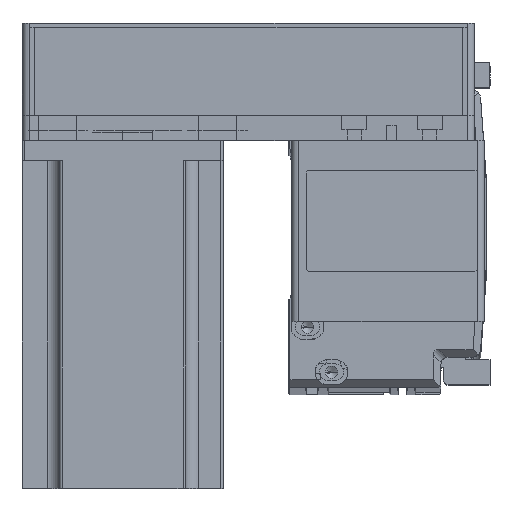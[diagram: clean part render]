
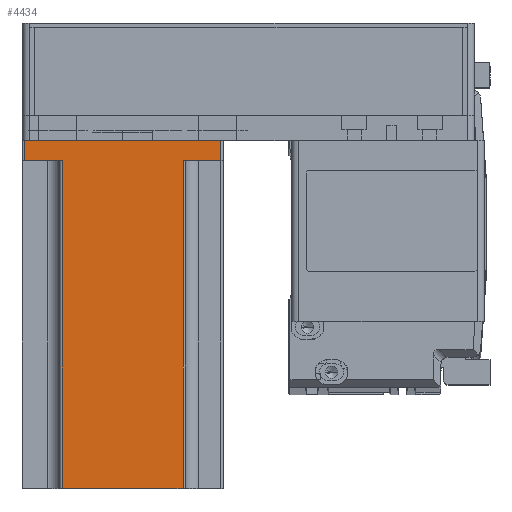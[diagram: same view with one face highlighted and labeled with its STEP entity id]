
A CAD part, top view. The second image highlights one B-rep face of the part: STEP entity #4434.
In plain terms, the highlighted planar face has unit normal (0, 0, 1) as drawn and (0, 1, 0) by its records, which use the part's own axes.
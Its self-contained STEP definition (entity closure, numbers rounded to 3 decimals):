
#4149 = LINE ( 'NONE', #34755, #52538 ) ;
#4434 = ADVANCED_FACE ( 'NONE', ( #22266 ), #26450, .F. ) ;
#5573 = VERTEX_POINT ( 'NONE', #26289 ) ;
#6129 = EDGE_CURVE ( 'NONE', #24711, #8296, #57076, .T. ) ;
#7142 = CARTESIAN_POINT ( 'NONE',  ( 39., 40., 0. ) ) ;
#8296 = VERTEX_POINT ( 'NONE', #11231 ) ;
#9396 = CARTESIAN_POINT ( 'NONE',  ( -24., 40., 138.3 ) ) ;
#10333 = LINE ( 'NONE', #21644, #22128 ) ;
#10719 = ORIENTED_EDGE ( 'NONE', *, *, #12893, .T. ) ;
#11231 = CARTESIAN_POINT ( 'NONE',  ( 24., 40., 8. ) ) ;
#11527 = VECTOR ( 'NONE', #13730, 1000. ) ;
#12279 = VERTEX_POINT ( 'NONE', #38466 ) ;
#12893 = EDGE_CURVE ( 'NONE', #5573, #48440, #4149, .T. ) ;
#13730 = DIRECTION ( 'NONE',  ( 0., 0., -1. ) ) ;
#14980 = ORIENTED_EDGE ( 'NONE', *, *, #34495, .T. ) ;
#15001 = VECTOR ( 'NONE', #47712, 1000. ) ;
#17083 = DIRECTION ( 'NONE',  ( 0., 0., 1. ) ) ;
#17632 = DIRECTION ( 'NONE',  ( 0., -1., 0. ) ) ;
#18100 = DIRECTION ( 'NONE',  ( -1., 0., 0. ) ) ;
#18305 = EDGE_CURVE ( 'NONE', #38100, #8296, #10333, .T. ) ;
#18637 = CARTESIAN_POINT ( 'NONE',  ( -39., 40., 8. ) ) ;
#20180 = ORIENTED_EDGE ( 'NONE', *, *, #18305, .F. ) ;
#21568 = VERTEX_POINT ( 'NONE', #38615 ) ;
#21644 = CARTESIAN_POINT ( 'NONE',  ( 25., 40., 8. ) ) ;
#22128 = VECTOR ( 'NONE', #48068, 1000. ) ;
#22266 = FACE_OUTER_BOUND ( 'NONE', #39530, .T. ) ;
#23183 = ORIENTED_EDGE ( 'NONE', *, *, #50802, .T. ) ;
#23450 = VECTOR ( 'NONE', #43294, 1000. ) ;
#24711 = VERTEX_POINT ( 'NONE', #33445 ) ;
#26166 = LINE ( 'NONE', #9396, #46796 ) ;
#26289 = CARTESIAN_POINT ( 'NONE',  ( -39., 40., 0. ) ) ;
#26450 = PLANE ( 'NONE',  #39154 ) ;
#26846 = VECTOR ( 'NONE', #18100, 1000. ) ;
#28674 = VECTOR ( 'NONE', #42554, 1000. ) ;
#30471 = CARTESIAN_POINT ( 'NONE',  ( 39., 40., 138.3 ) ) ;
#31320 = CARTESIAN_POINT ( 'NONE',  ( 40., 40., 0. ) ) ;
#33375 = EDGE_CURVE ( 'NONE', #21568, #12279, #26166, .T. ) ;
#33445 = CARTESIAN_POINT ( 'NONE',  ( 24., 40., 138.3 ) ) ;
#34495 = EDGE_CURVE ( 'NONE', #38100, #41663, #41757, .T. ) ;
#34755 = CARTESIAN_POINT ( 'NONE',  ( -39., 40., 138.3 ) ) ;
#34893 = CARTESIAN_POINT ( 'NONE',  ( 39., 40., 8. ) ) ;
#35993 = ORIENTED_EDGE ( 'NONE', *, *, #33375, .T. ) ;
#38100 = VERTEX_POINT ( 'NONE', #34893 ) ;
#38466 = CARTESIAN_POINT ( 'NONE',  ( -24., 40., 138.3 ) ) ;
#38615 = CARTESIAN_POINT ( 'NONE',  ( -24., 40., 8. ) ) ;
#39154 = AXIS2_PLACEMENT_3D ( 'NONE', #44139, #17632, #48547 ) ;
#39400 = DIRECTION ( 'NONE',  ( 0., 0., 1. ) ) ;
#39530 = EDGE_LOOP ( 'NONE', ( #23183, #35993, #48772, #52986, #20180, #14980, #49863, #10719 ) ) ;
#39930 = LINE ( 'NONE', #55566, #15001 ) ;
#41663 = VERTEX_POINT ( 'NONE', #7142 ) ;
#41757 = LINE ( 'NONE', #30471, #28674 ) ;
#42554 = DIRECTION ( 'NONE',  ( 0., 0., -1. ) ) ;
#43294 = DIRECTION ( 'NONE',  ( 1., 0., 0. ) ) ;
#43730 = EDGE_CURVE ( 'NONE', #41663, #5573, #51636, .T. ) ;
#44139 = CARTESIAN_POINT ( 'NONE',  ( 40., 40., 138.3 ) ) ;
#44675 = CARTESIAN_POINT ( 'NONE',  ( 24., 40., 138.3 ) ) ;
#46796 = VECTOR ( 'NONE', #39400, 1000. ) ;
#46881 = LINE ( 'NONE', #47724, #23450 ) ;
#47712 = DIRECTION ( 'NONE',  ( -1., 0., 0. ) ) ;
#47724 = CARTESIAN_POINT ( 'NONE',  ( -25., 40., 8. ) ) ;
#48068 = DIRECTION ( 'NONE',  ( -1., 0., 0. ) ) ;
#48440 = VERTEX_POINT ( 'NONE', #18637 ) ;
#48547 = DIRECTION ( 'NONE',  ( 1., 0., 0. ) ) ;
#48772 = ORIENTED_EDGE ( 'NONE', *, *, #52341, .F. ) ;
#49863 = ORIENTED_EDGE ( 'NONE', *, *, #43730, .T. ) ;
#50802 = EDGE_CURVE ( 'NONE', #48440, #21568, #46881, .T. ) ;
#51636 = LINE ( 'NONE', #31320, #26846 ) ;
#52341 = EDGE_CURVE ( 'NONE', #24711, #12279, #39930, .T. ) ;
#52538 = VECTOR ( 'NONE', #17083, 1000. ) ;
#52986 = ORIENTED_EDGE ( 'NONE', *, *, #6129, .T. ) ;
#55566 = CARTESIAN_POINT ( 'NONE',  ( 40., 40., 138.3 ) ) ;
#57076 = LINE ( 'NONE', #44675, #11527 ) ;
